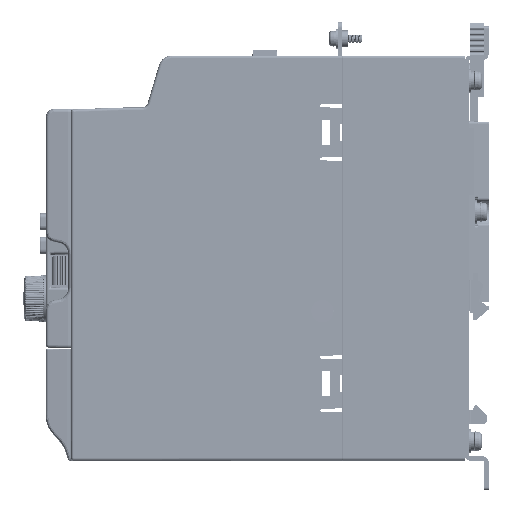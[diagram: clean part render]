
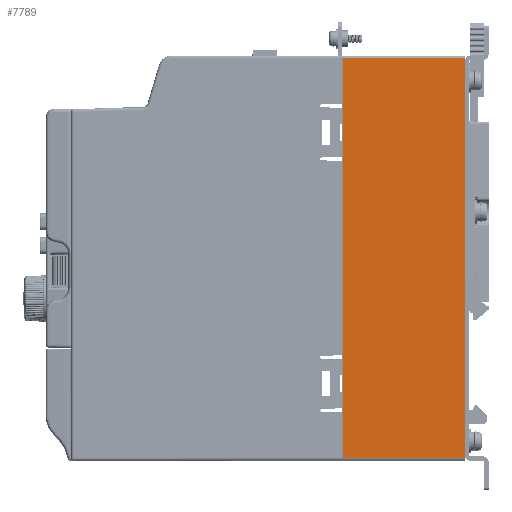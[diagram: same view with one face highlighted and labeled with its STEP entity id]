
A CAD part, left-side view. The second image highlights one B-rep face of the part: STEP entity #7789.
In plain terms, the highlighted planar face has unit normal (-1, 0, 0).
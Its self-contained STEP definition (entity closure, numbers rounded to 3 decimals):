
#1407=DIRECTION('',(0.,1.,0.));
#1408=VECTOR('',#1407,43.8);
#1409=CARTESIAN_POINT('',(-47.5,-44.,71.5));
#1410=LINE('',#1409,#1408);
#3247=DIRECTION('',(0.,-1.,0.));
#3248=VECTOR('',#3247,43.8);
#3249=CARTESIAN_POINT('',(-47.5,-0.2,-71.5));
#3250=LINE('',#3249,#3248);
#3847=DIRECTION('',(0.,0.,-1.));
#3848=VECTOR('',#3847,143.);
#3849=CARTESIAN_POINT('',(-47.5,-0.2,71.5));
#3850=LINE('',#3849,#3848);
#3861=DIRECTION('',(0.,0.,-1.));
#3862=VECTOR('',#3861,143.);
#3863=CARTESIAN_POINT('',(-47.5,-44.,71.5));
#3864=LINE('',#3863,#3862);
#4199=CARTESIAN_POINT('',(-47.5,-0.2,71.5));
#4200=VERTEX_POINT('',#4199);
#4201=CARTESIAN_POINT('',(-47.5,-44.,71.5));
#4202=VERTEX_POINT('',#4201);
#4207=CARTESIAN_POINT('',(-47.5,-44.,-71.5));
#4208=VERTEX_POINT('',#4207);
#4363=CARTESIAN_POINT('',(-47.5,-0.2,-71.5));
#4364=VERTEX_POINT('',#4363);
#7778=CARTESIAN_POINT('',(-47.5,0.,-72.5));
#7779=DIRECTION('',(-1.,0.,0.));
#7780=DIRECTION('',(0.,-1.,0.));
#7781=AXIS2_PLACEMENT_3D('',#7778,#7779,#7780);
#7782=PLANE('',#7781);
#7783=ORIENTED_EDGE('',*,*,#7763,.F.);
#7784=ORIENTED_EDGE('',*,*,#4970,.F.);
#7785=ORIENTED_EDGE('',*,*,#4996,.T.);
#7786=ORIENTED_EDGE('',*,*,#7116,.F.);
#7787=EDGE_LOOP('',(#7783,#7784,#7785,#7786));
#7788=FACE_OUTER_BOUND('',#7787,.F.);
#4970=EDGE_CURVE('',#4202,#4200,#1410,.T.);
#4996=EDGE_CURVE('',#4202,#4208,#3864,.T.);
#7116=EDGE_CURVE('',#4364,#4208,#3250,.T.);
#7763=EDGE_CURVE('',#4200,#4364,#3850,.T.);
#7789=ADVANCED_FACE('',(#7788),#7782,.T.);
